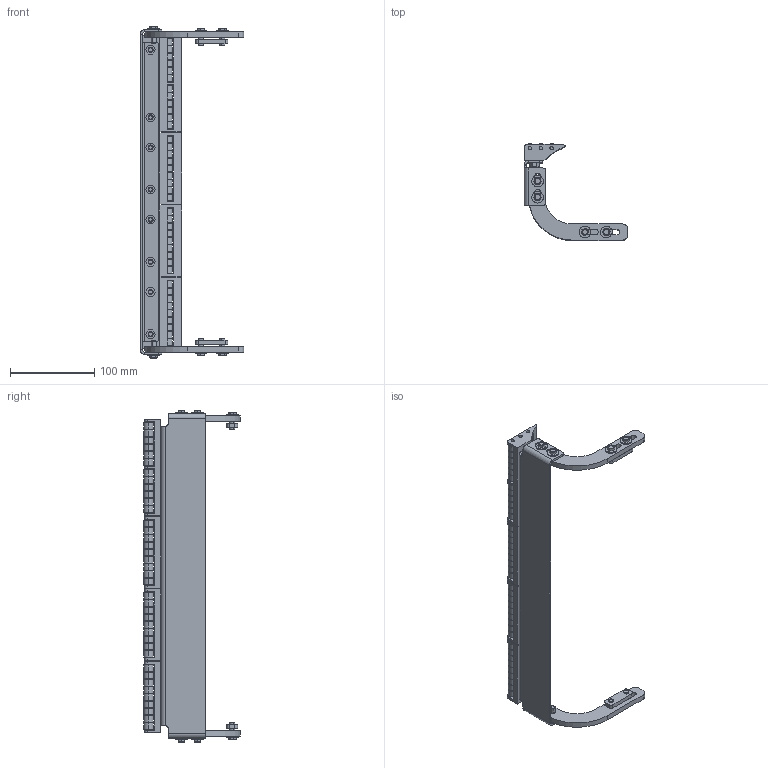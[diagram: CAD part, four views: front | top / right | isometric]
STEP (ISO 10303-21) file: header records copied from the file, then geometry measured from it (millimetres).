
FILE_DESCRIPTION((''),'2;1');
FILE_NAME('518355-14_ASM','2023-03-24T',('jenni.wallner'),(''),'PRO/ENGINEER BY PARAMETRIC TECHNOLOGY CORPORATION, 2012420','PRO/ENGINEER BY PARAMETRIC TECHNOLOGY CORPORATION, 2012420','');
FILE_SCHEMA(('CONFIG_CONTROL_DESIGN'));
Length unit declared in the file: inch
Products named in the file (75): 960616MSSF; 520309; 518353-WW_518353-14; 807-1830_25-1-SOLID1; 807-1830_5-1-SOLID1; 807-1830_26-1-SOLID1; 807-1830_6-1-SOLID1; 807-1830_14-1-SOLID1; 807-1830_35-1-SOLID1; 807-1830_10-1-SOLID1; 807-1830_31-1-SOLID1; 807-1830_16-1-SOLID1; 807-1830_12-1-SOLID1; 807-1830_18-1-SOLID1; 807-1830_20-1-SOLID1; 807-1830_2-1-SOLID1; 807-1830_1-1-SOLID1; 807-1830_17-1-SOLID1; 807-1830_22-1-SOLID1; 807-1830_3-1-SOLID1; 807-1830-1-SOLID1; 807-1830_24-1-SOLID1; 807-1830_4-1-SOLID1; 807-1830_13-1-SOLID1; 807-1830_9-1-SOLID1; 807-1830_28-1-SOLID1; 807-1830_30-1-SOLID1; 807-1830_34-1-SOLID1; 807-1830_27-1-SOLID1; 807-1830_32-1-SOLID1; 807-1830_23-1-SOLID1; 807-1830_21-1-SOLID1; 807-1830_33-1-SOLID1; 807-1830_29-1-SOLID1; 807-1830_8-1-SOLID1; 807-1830_7-1-SOLID1; 807-1830_11-1-SOLID1; 807-1830_15-1-SOLID1; 807-1830_19-1-SOLID1; 807-1830_36-1-SOLID1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
Assembly tree (85 placements, depth 4):
  518355-14_ASM
    ASM0001_ASM
      960616MSSF  x8
      520309  x2
      518353-WW_518353-14
      807-1830_ASM
        807-1830_25-1-SOLID1
        807-1830_5-1-SOLID1
        807-1830_26-1-SOLID1
        807-1830_6-1-SOLID1
        807-1830_14-1-SOLID1
        807-1830_35-1-SOLID1
        807-1830_10-1-SOLID1
        807-1830_31-1-SOLID1
        807-1830_16-1-SOLID1
        807-1830_12-1-SOLID1
        807-1830_18-1-SOLID1
        807-1830_20-1-SOLID1
        807-1830_2-1-SOLID1
        807-1830_1-1-SOLID1
        807-1830_17-1-SOLID1
        807-1830_22-1-SOLID1
        807-1830_3-1-SOLID1
        807-1830-1-SOLID1
        807-1830_24-1-SOLID1
        807-1830_4-1-SOLID1
        807-1830_13-1-SOLID1
        807-1830_9-1-SOLID1
        807-1830_28-1-SOLID1
        807-1830_30-1-SOLID1
        807-1830_34-1-SOLID1
        807-1830_27-1-SOLID1
        807-1830_32-1-SOLID1
        807-1830_23-1-SOLID1
        807-1830_21-1-SOLID1
        807-1830_33-1-SOLID1
        807-1830_29-1-SOLID1
        807-1830_8-1-SOLID1
        807-1830_7-1-SOLID1
        807-1830_11-1-SOLID1
        807-1830_15-1-SOLID1
        807-1830_19-1-SOLID1
        807-1830_36-1-SOLID1
      807-1829_ASM  x3
        807-1829_23-1-SOLID1
        807-1829_18-1-SOLID1
        807-1829_2-1-SOLID1
        807-1829_9-1-SOLID1
        807-1829_4-1-SOLID1
        CUT-EXTRUDE1_2_
        807-1829_21-1-SOLID1
        807-1829_3-1-SOLID1
        807-1829_5-1-SOLID1
        807-1829_27-1-SOLID1
        807-1829_1-1-SOLID1
        807-1829_13-1-SOLID1
        807-1829_25-1-SOLID1
        807-1829_15-1-SOLID1
        807-1829_19-1-SOLID1
        807-1829_20-1-SOLID1
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Bounding box: 122.82 x 114.68 x 394.12 mm (x, y, z)
Volume: 314144.5 mm3; surface area: 193832 mm2
Topology: 140 solids, 140 shells, 1063 faces, 2185 edges, 1439 vertices
Faces by surface type: plane 528, cylinder 487, cone 48
Entity records: 16322 total; most frequent: DIRECTION 3136, CARTESIAN_POINT 2614, ORIENTED_EDGE 2162, AXIS2_PLACEMENT_3D 1297, EDGE_CURVE 1081, VERTEX_POINT 713, EDGE_LOOP 600, VECTOR 542
